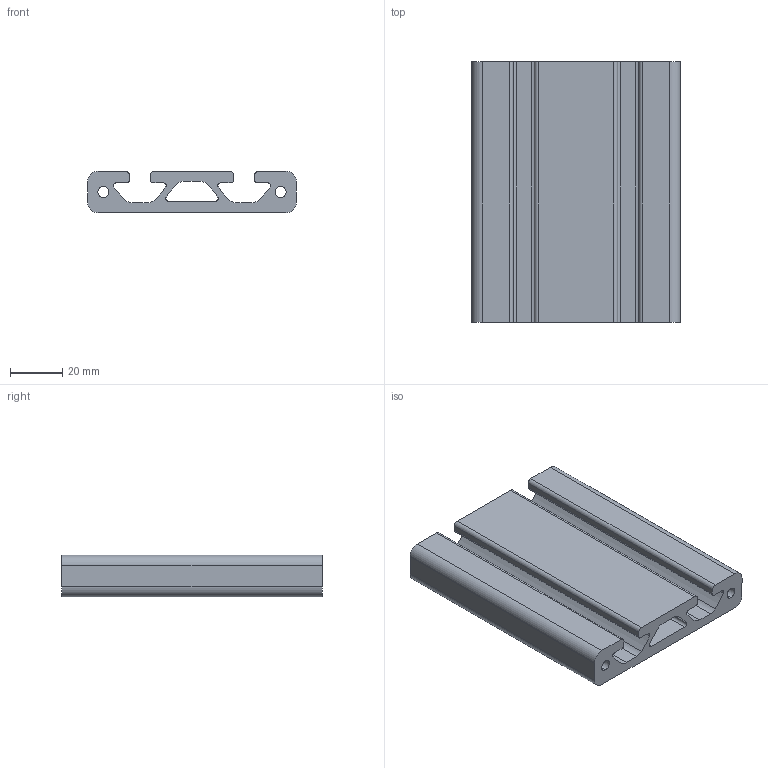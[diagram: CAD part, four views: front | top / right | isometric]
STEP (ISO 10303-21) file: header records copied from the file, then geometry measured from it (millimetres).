
FILE_DESCRIPTION (( 'STEP AP203' ), '1' );
FILE_NAME ('0108P8016S.STEP', '2024-02-29T09:47:48', ( 'Windows-Benutzer' ), ( '' ), 'SwSTEP 2.0', 'SolidWorks 2023', '' );
FILE_SCHEMA (( 'CONFIG_CONTROL_DESIGN' ));
Length unit declared in the file: millimetre
Products named in the file (1): 0108P8016S
Bounding box: 80 x 100 x 16 mm (x, y, z)
Volume: 79982.1 mm3; surface area: 35176 mm2
Topology: 1 solids, 1 shells, 54 faces, 156 edges, 104 vertices
Faces by surface type: cylinder 34, plane 20
Entity records: 1897 total; most frequent: DIRECTION 334, CARTESIAN_POINT 315, ORIENTED_EDGE 312, EDGE_CURVE 156, AXIS2_PLACEMENT_3D 123, VERTEX_POINT 104, LINE 88, VECTOR 88
